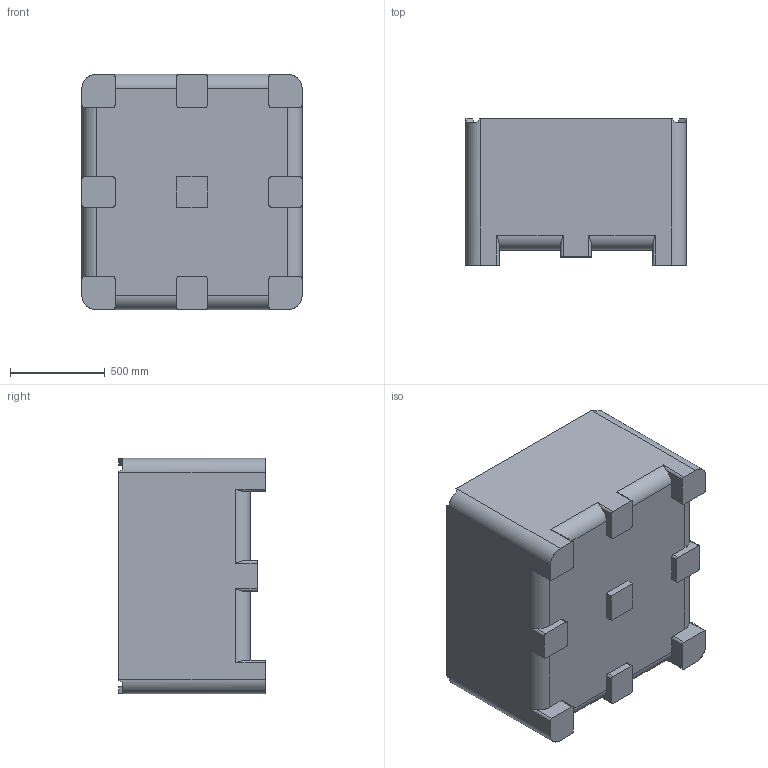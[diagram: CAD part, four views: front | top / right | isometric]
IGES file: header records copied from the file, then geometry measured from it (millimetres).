
Start section: SolidWorks IGES file using analytic representation for surfaces
Global section: file name: C:\Users\bconder\Documents\Production Models\MacroBins\33FV\33FV Block Model.IGS; native system: SolidWorks 2013; preprocessor: SolidWorks 2013; author: bconder; date: 130702.130742; units: millimetre
Bounding box: 1162.05 x 774.7 x 1241.42 mm (x, y, z)
Surface area: 9083815.6 mm2 (no closed solid volume)
Topology: 0 solids, 0 shells, 111 faces, 1376 edges, 1374 vertices
Faces by surface type: bspline 59, revolution 52
